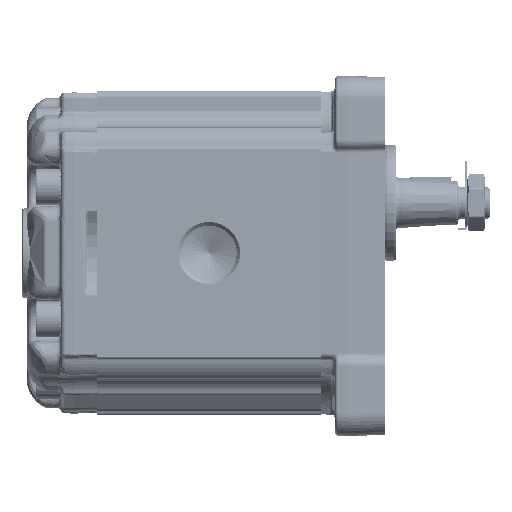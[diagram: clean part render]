
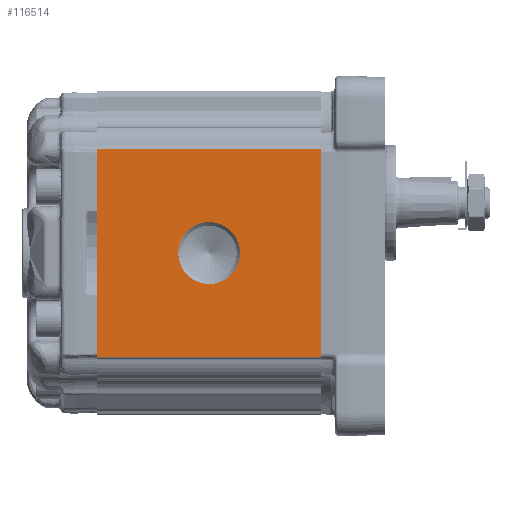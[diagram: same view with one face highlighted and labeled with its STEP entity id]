
A CAD part, left-side view. The second image highlights one B-rep face of the part: STEP entity #116514.
In plain terms, the highlighted planar face has unit normal (-1, 0, 0) as drawn and (1, 0, 0) by its records, which use the part's own axes.
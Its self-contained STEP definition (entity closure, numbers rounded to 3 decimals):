
#6817=PLANE('',#123164);
#9636=LINE('',#179253,#14495);
#9647=LINE('',#179337,#14506);
#9693=LINE('',#179487,#14552);
#9694=LINE('',#179488,#14553);
#14495=VECTOR('',#137061,1000.);
#14506=VECTOR('',#137136,1000.);
#14552=VECTOR('',#137298,1000.);
#14553=VECTOR('',#137299,1000.);
#29597=ORIENTED_EDGE('',*,*,#50540,.T.);
#29598=ORIENTED_EDGE('',*,*,#50419,.F.);
#29599=ORIENTED_EDGE('',*,*,#50541,.T.);
#29600=ORIENTED_EDGE('',*,*,#50461,.F.);
#29601=ORIENTED_EDGE('',*,*,#50542,.T.);
#50419=EDGE_CURVE('',#61757,#61758,#9636,.T.);
#50461=EDGE_CURVE('',#61799,#61800,#9647,.T.);
#50540=EDGE_CURVE('',#61844,#61844,#68627,.F.);
#50541=EDGE_CURVE('',#61757,#61800,#9693,.F.);
#50542=EDGE_CURVE('',#61799,#61758,#9694,.F.);
#61757=VERTEX_POINT('',#179252);
#61758=VERTEX_POINT('',#179254);
#61799=VERTEX_POINT('',#179338);
#61800=VERTEX_POINT('',#179339);
#61844=VERTEX_POINT('',#179486);
#68627=CIRCLE('',#123165,13.559);
#72855=EDGE_LOOP('',(#29597));
#72856=EDGE_LOOP('',(#29598,#29599,#29600,#29601));
#77875=FACE_BOUND('',#72855,.T.);
#77876=FACE_BOUND('',#72856,.T.);
#116514=ADVANCED_FACE('',(#77875,#77876),#6817,.T.);
#123164=AXIS2_PLACEMENT_3D('',#179484,#137294,#137295);
#123165=AXIS2_PLACEMENT_3D('',#179485,#137296,#137297);
#137061=DIRECTION('',(0.,0.,-1.));
#137136=DIRECTION('',(0.,0.,1.));
#137294=DIRECTION('',(1.,0.,0.));
#137295=DIRECTION('',(0.,0.,1.));
#137296=DIRECTION('',(1.,0.,0.));
#137297=DIRECTION('',(0.,0.,1.));
#137298=DIRECTION('',(0.,1.,0.));
#137299=DIRECTION('',(0.,-1.,0.));
#179252=CARTESIAN_POINT('',(57.5,98.,45.5));
#179253=CARTESIAN_POINT('',(57.5,98.,91.388));
#179254=CARTESIAN_POINT('',(57.5,98.,-45.5));
#179337=CARTESIAN_POINT('',(57.5,0.,-44.978));
#179338=CARTESIAN_POINT('',(57.5,0.,-45.5));
#179339=CARTESIAN_POINT('',(57.5,0.,45.5));
#179484=CARTESIAN_POINT('',(57.5,-135.113,91.388));
#179485=CARTESIAN_POINT('',(57.5,49.,0.));
#179486=CARTESIAN_POINT('',(57.5,49.,13.559));
#179487=CARTESIAN_POINT('',(57.5,-135.113,45.5));
#179488=CARTESIAN_POINT('',(57.5,-135.113,-45.5));
